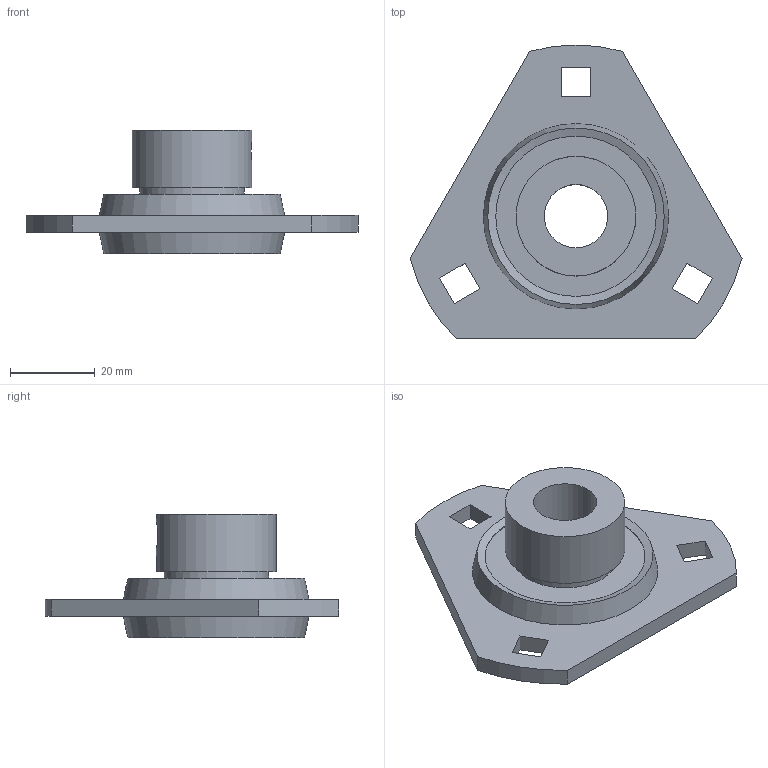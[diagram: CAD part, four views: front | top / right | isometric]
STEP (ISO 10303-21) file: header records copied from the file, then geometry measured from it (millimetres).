
FILE_DESCRIPTION((''),'2;1');
FILE_NAME('\\Ts-tgl068\j-cad-d-base\00.3DCADデータ作成フォルダ\02.フランジ形\KHPFT\KHPFT202A.stp','2014-04-24T10:28:34',('btec_1106_2'),(''),'Autodesk Inventor 2012','Autodesk Inventor 2012','');
FILE_SCHEMA(('AUTOMOTIVE_DESIGN { 1 0 10303 214 1 1 1 1 }'));
Length unit declared in the file: millimetre
Products named in the file (3): KHPFT200A; PFT3; KH202GA
Assembly tree (2 placements, depth 2):
  KHPFT200A
    PFT3
    KH202GA
Bounding box: 78.5 x 69.5 x 29.1 mm (x, y, z)
Volume: 31513.9 mm3; surface area: 15707.8 mm2
Topology: 2 solids, 2 shells, 48 faces, 120 edges, 80 vertices
Faces by surface type: plane 30, cylinder 9, sphere 4, cone 4, torus 1
Full cylindrical faces by diameter (mm): 4.8 x1, 6 x1, 15 x1, 22.35 x1, 24.7 x1, 28.3 x1
Entity records: 1433 total; most frequent: CARTESIAN_POINT 287, DIRECTION 224, ORIENTED_EDGE 190, EDGE_CURVE 95, AXIS2_PLACEMENT_3D 79, EDGE_LOOP 78, VERTEX_POINT 71, VECTOR 66
